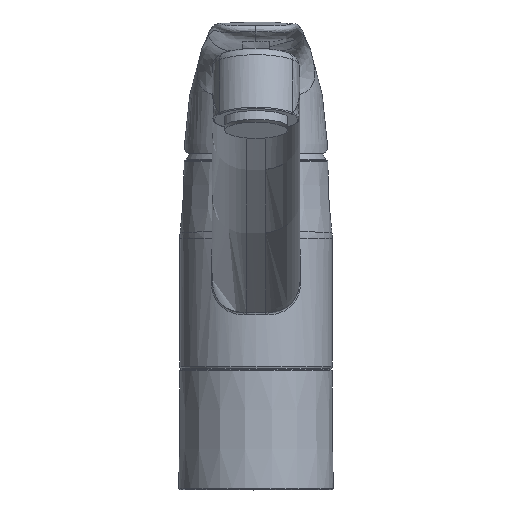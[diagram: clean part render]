
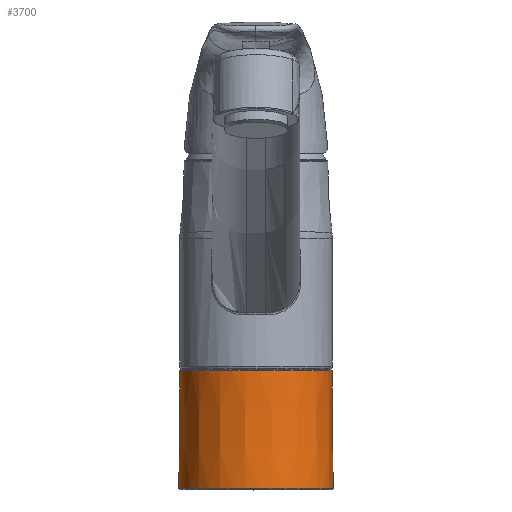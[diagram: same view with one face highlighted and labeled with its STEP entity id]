
A CAD part, top view. The second image highlights one B-rep face of the part: STEP entity #3700.
In plain terms, the highlighted conical face has half-angle 0.5 degrees and reference radius 26.5 mm.
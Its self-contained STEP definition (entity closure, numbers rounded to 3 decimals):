
#1435 = CARTESIAN_POINT ( 'NONE',  ( 26.487, 41.403, -0.925 ) ) ;
#2654 = AXIS2_PLACEMENT_3D ( 'NONE', #6615, #8684, #10556 ) ;
#3700 = ADVANCED_FACE ( 'NONE', ( #4578, #4414 ), #4107, .T. ) ;
#4088 = AXIS2_PLACEMENT_3D ( 'NONE', #5385, #12003, #6375 ) ;
#4107 = CONICAL_SURFACE ( 'NONE', #2654, 26.5, 0.009 ) ;
#4307 = DIRECTION ( 'NONE',  ( 0., -1., 0. ) ) ;
#4414 = FACE_OUTER_BOUND ( 'NONE', #9614, .T. ) ;
#4578 = FACE_BOUND ( 'NONE', #9174, .T. ) ;
#5385 = CARTESIAN_POINT ( 'NONE',  ( 0., 0.403, 0. ) ) ;
#5403 = AXIS2_PLACEMENT_3D ( 'NONE', #10094, #4307, #10992 ) ;
#6375 = DIRECTION ( 'NONE',  ( 0.999, 0., -0.035 ) ) ;
#6615 = CARTESIAN_POINT ( 'NONE',  ( 0., 41.8, 0. ) ) ;
#7378 = CARTESIAN_POINT ( 'NONE',  ( 26.845, 0.403, -0.937 ) ) ;
#7908 = ORIENTED_EDGE ( 'NONE', *, *, #8742, .T. ) ;
#7942 = ORIENTED_EDGE ( 'NONE', *, *, #9136, .T. ) ;
#8684 = DIRECTION ( 'NONE',  ( 0., -1., 0. ) ) ;
#8742 = EDGE_CURVE ( 'NONE', #9739, #9739, #12128, .T. ) ;
#9136 = EDGE_CURVE ( 'NONE', #9634, #9634, #12156, .T. ) ;
#9174 = EDGE_LOOP ( 'NONE', ( #7942 ) ) ;
#9614 = EDGE_LOOP ( 'NONE', ( #7908 ) ) ;
#9634 = VERTEX_POINT ( 'NONE', #1435 ) ;
#9739 = VERTEX_POINT ( 'NONE', #7378 ) ;
#10094 = CARTESIAN_POINT ( 'NONE',  ( 0., 41.403, 0. ) ) ;
#10556 = DIRECTION ( 'NONE',  ( 0.999, 0., -0.035 ) ) ;
#10992 = DIRECTION ( 'NONE',  ( 0.999, 0., -0.035 ) ) ;
#12003 = DIRECTION ( 'NONE',  ( 0., 1., 0. ) ) ;
#12128 = CIRCLE ( 'NONE', #4088, 26.861 ) ;
#12156 = CIRCLE ( 'NONE', #5403, 26.503 ) ;
